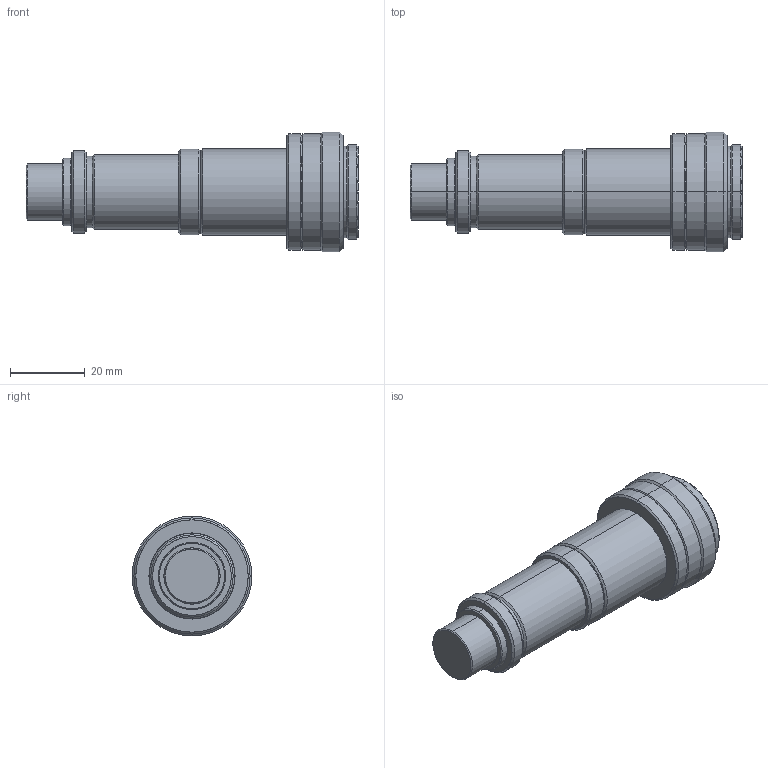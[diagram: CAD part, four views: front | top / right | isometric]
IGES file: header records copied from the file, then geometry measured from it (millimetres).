
Start section: SolidWorks IGES file using analytic representation for surfaces
Global section: file name: C:\Users\tsuzuki_vst\Documents\09-業務_検討\149-【3D】VS-MC0510\VS-MC0510.IGS; native system: SolidWorks 2018; preprocessor: SolidWorks 2018; author: tsuzuki_vst; date: 190415.115555; units: millimetre
Bounding box: 88.7 x 32 x 32 mm (x, y, z)
Surface area: 7983.3 mm2 (no closed solid volume)
Topology: 0 solids, 0 shells, 65 faces, 800 edges, 800 vertices
Faces by surface type: revolution 56, bspline 9
